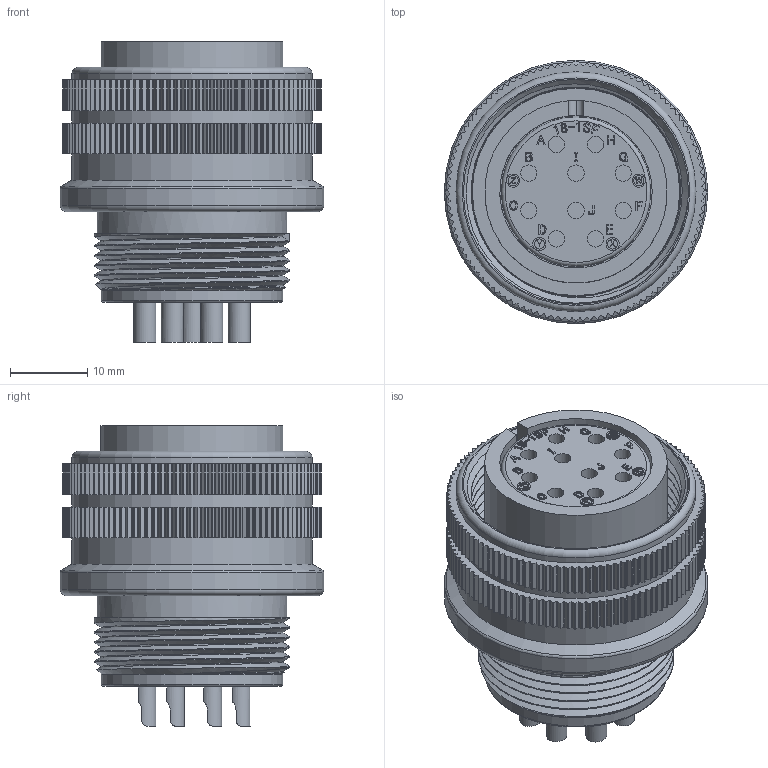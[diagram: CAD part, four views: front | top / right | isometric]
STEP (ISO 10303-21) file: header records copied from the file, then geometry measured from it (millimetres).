
FILE_DESCRIPTION (( 'STEP AP203' ), '1' );
FILE_NAME ('DMS3106A18-1S(D190).STEP', '2020-07-06T02:58:55', ( '' ), ( '' ), 'SwSTEP 2.0', 'SolidWorks 2018', '' );
FILE_SCHEMA (( 'CONFIG_CONTROL_DESIGN' ));
Products named in the file (1): DMS3106A18-1S(D190)
Bounding box: 34.08 x 34.08 x 38.89 mm (x, y, z)
Volume: 18876.1 mm3; surface area: 14211.2 mm2
Topology: 1 solids, 1 shells, 2303 faces, 6561 edges, 4362 vertices
Faces by surface type: cylinder 1025, plane 983, bspline 265, torus 27, cone 3
Full cylindrical faces by diameter (mm): 1.3 x4, 1.7 x4, 2.11 x10, 17.45 x1, 19.32 x1, 19.72 x1, 21.05 x1, 23.5 x1, 24.53 x1, 25.43 x1, 26.82 x1, 27.02 x1, 27.83 x1, 31.04 x3, 34.08 x1
Entity records: 86534 total; most frequent: CARTESIAN_POINT 27019, ORIENTED_EDGE 13010, DIRECTION 11828, EDGE_CURVE 6505, VERTEX_POINT 4348, AXIS2_PLACEMENT_3D 4016, LINE 3796, VECTOR 3796
